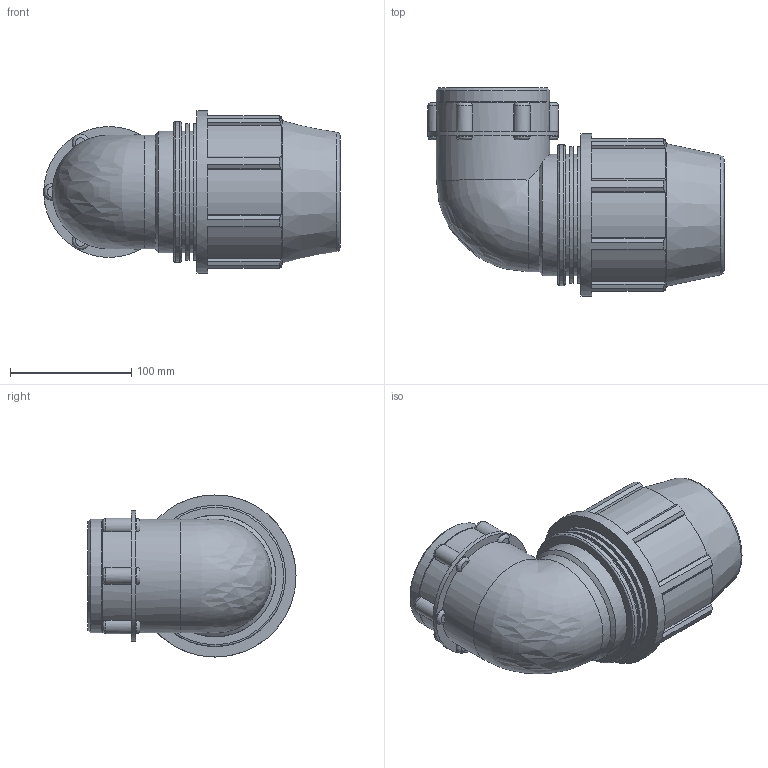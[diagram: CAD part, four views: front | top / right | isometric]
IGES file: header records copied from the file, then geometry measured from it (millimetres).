
Global section: file name: 0715060750250A.ipt; native system: Autodesk Inventor 2015; preprocessor: unknown; author: KIM; date: 20180325.201239; units: millimetre
Bounding box: 244.99 x 172 x 134 mm (x, y, z)
Volume: 1480873.2 mm3; surface area: 193770.2 mm2
Topology: 1 solids, 1 shells, 137 faces, 368 edges, 242 vertices
Faces by surface type: plane 71, cylinder 37, revolution 22, cone 6, bspline 1
Full cylindrical faces by diameter (mm): 93.894 x2, 100.5 x3, 107.978 x1, 113.083 x2, 116.58 x1, 134 x1
